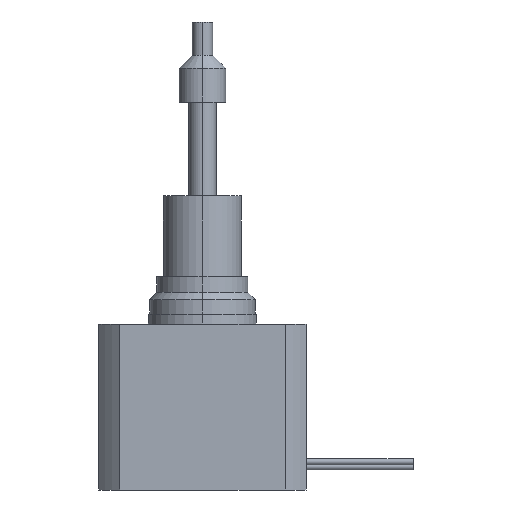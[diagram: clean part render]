
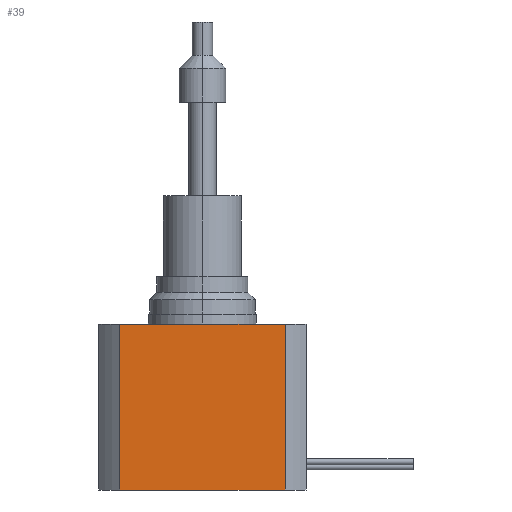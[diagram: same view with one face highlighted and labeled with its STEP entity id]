
A CAD part, left-side view. The second image highlights one B-rep face of the part: STEP entity #39.
In plain terms, the highlighted planar face has unit normal (-1, 0, 0).
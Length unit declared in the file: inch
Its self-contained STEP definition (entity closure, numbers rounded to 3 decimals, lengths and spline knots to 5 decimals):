
#19 = CARTESIAN_POINT ( 'NONE',  ( -0.83071, 0.66293, -1.33071 ) ) ;
#39 = ADVANCED_FACE ( 'NONE', ( #2814 ), #1052, .T. ) ;
#243 = CARTESIAN_POINT ( 'NONE',  ( -0.83071, 0.66293, 0. ) ) ;
#250 = VERTEX_POINT ( 'NONE', #19 ) ;
#382 = LINE ( 'NONE', #2839, #2824 ) ;
#438 = CARTESIAN_POINT ( 'NONE',  ( -0.83071, -0.66293, 0. ) ) ;
#562 = DIRECTION ( 'NONE',  ( 0., 0., 1. ) ) ;
#650 = ORIENTED_EDGE ( 'NONE', *, *, #1115, .T. ) ;
#653 = EDGE_LOOP ( 'NONE', ( #650, #803, #2018, #699 ) ) ;
#664 = EDGE_CURVE ( 'NONE', #1574, #2756, #1693, .T. ) ;
#699 = ORIENTED_EDGE ( 'NONE', *, *, #2864, .T. ) ;
#701 = CARTESIAN_POINT ( 'NONE',  ( -0.83071, -0.66293, -1.33071 ) ) ;
#711 = DIRECTION ( 'NONE',  ( 0., -1., 0. ) ) ;
#775 = CARTESIAN_POINT ( 'NONE',  ( -0.83071, 0.83071, -1.33071 ) ) ;
#797 = DIRECTION ( 'NONE',  ( 0., 0., 1. ) ) ;
#802 = DIRECTION ( 'NONE',  ( 0., -1., 0. ) ) ;
#803 = ORIENTED_EDGE ( 'NONE', *, *, #664, .F. ) ;
#951 = CARTESIAN_POINT ( 'NONE',  ( -0.83071, 0.83071, 0. ) ) ;
#1052 = PLANE ( 'NONE',  #2618 ) ;
#1115 = EDGE_CURVE ( 'NONE', #1347, #2756, #3194, .T. ) ;
#1139 = VECTOR ( 'NONE', #797, 39.37008 ) ;
#1347 = VERTEX_POINT ( 'NONE', #2953 ) ;
#1574 = VERTEX_POINT ( 'NONE', #243 ) ;
#1693 = LINE ( 'NONE', #951, #1827 ) ;
#1791 = DIRECTION ( 'NONE',  ( -1., 0., 0. ) ) ;
#1827 = VECTOR ( 'NONE', #711, 39.37008 ) ;
#1874 = EDGE_CURVE ( 'NONE', #250, #1574, #382, .T. ) ;
#2018 = ORIENTED_EDGE ( 'NONE', *, *, #1874, .F. ) ;
#2258 = VECTOR ( 'NONE', #802, 39.37008 ) ;
#2321 = DIRECTION ( 'NONE',  ( 0., -1., 0. ) ) ;
#2340 = LINE ( 'NONE', #2546, #2258 ) ;
#2546 = CARTESIAN_POINT ( 'NONE',  ( -0.83071, 0.83071, -1.33071 ) ) ;
#2618 = AXIS2_PLACEMENT_3D ( 'NONE', #775, #1791, #2321 ) ;
#2756 = VERTEX_POINT ( 'NONE', #438 ) ;
#2814 = FACE_OUTER_BOUND ( 'NONE', #653, .T. ) ;
#2824 = VECTOR ( 'NONE', #562, 39.37008 ) ;
#2839 = CARTESIAN_POINT ( 'NONE',  ( -0.83071, 0.66293, -1.33071 ) ) ;
#2864 = EDGE_CURVE ( 'NONE', #250, #1347, #2340, .T. ) ;
#2953 = CARTESIAN_POINT ( 'NONE',  ( -0.83071, -0.66293, -1.33071 ) ) ;
#3194 = LINE ( 'NONE', #701, #1139 ) ;
